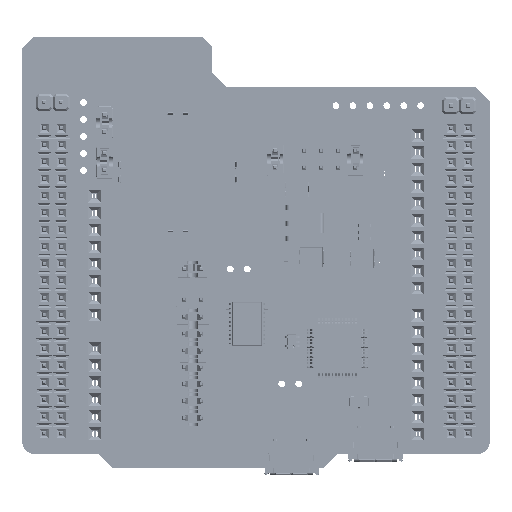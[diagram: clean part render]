
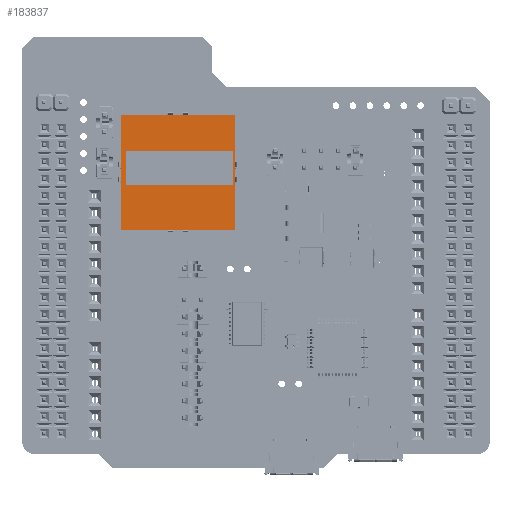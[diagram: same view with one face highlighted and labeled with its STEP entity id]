
A CAD part, top view. The second image highlights one B-rep face of the part: STEP entity #183837.
In plain terms, the highlighted planar face has unit normal (0, 0, 1) as drawn and (0, 0, -1) by its records, which use the part's own axes.
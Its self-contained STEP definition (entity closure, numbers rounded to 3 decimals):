
#183671 = EDGE_CURVE('',#183672,#183674,#183676,.T.);
#183672 = VERTEX_POINT('',#183673);
#183673 = CARTESIAN_POINT('',(0.,17.2,0.));
#183674 = VERTEX_POINT('',#183675);
#183675 = CARTESIAN_POINT('',(0.,0.,0.));
#183676 = LINE('',#183677,#183678);
#183677 = CARTESIAN_POINT('',(0.,0.,0.));
#183678 = VECTOR('',#183679,1.);
#183679 = DIRECTION('',(0.,-1.,0.));
#183711 = EDGE_CURVE('',#183674,#183712,#183714,.T.);
#183712 = VERTEX_POINT('',#183713);
#183713 = CARTESIAN_POINT('',(17.2,0.,0.));
#183714 = LINE('',#183715,#183716);
#183715 = CARTESIAN_POINT('',(0.,0.,0.));
#183716 = VECTOR('',#183717,1.);
#183717 = DIRECTION('',(1.,0.,0.));
#183742 = EDGE_CURVE('',#183712,#183743,#183745,.T.);
#183743 = VERTEX_POINT('',#183744);
#183744 = CARTESIAN_POINT('',(17.2,17.2,0.));
#183745 = LINE('',#183746,#183747);
#183746 = CARTESIAN_POINT('',(17.2,0.,0.));
#183747 = VECTOR('',#183748,1.);
#183748 = DIRECTION('',(0.,1.,0.));
#183773 = EDGE_CURVE('',#183743,#183672,#183774,.T.);
#183774 = LINE('',#183775,#183776);
#183775 = CARTESIAN_POINT('',(0.,17.2,0.));
#183776 = VECTOR('',#183777,1.);
#183777 = DIRECTION('',(-1.,0.,0.));
#183837 = ADVANCED_FACE('',(#183838),#183844,.T.);
#183838 = FACE_BOUND('',#183839,.T.);
#183839 = EDGE_LOOP('',(#183840,#183841,#183842,#183843));
#183840 = ORIENTED_EDGE('',*,*,#183671,.F.);
#183841 = ORIENTED_EDGE('',*,*,#183773,.F.);
#183842 = ORIENTED_EDGE('',*,*,#183742,.F.);
#183843 = ORIENTED_EDGE('',*,*,#183711,.F.);
#183844 = PLANE('',#183845);
#183845 = AXIS2_PLACEMENT_3D('',#183846,#183847,#183848);
#183846 = CARTESIAN_POINT('',(0.,17.2,0.));
#183847 = DIRECTION('',(0.,0.,-1.));
#183848 = DIRECTION('',(-1.,0.,0.));
